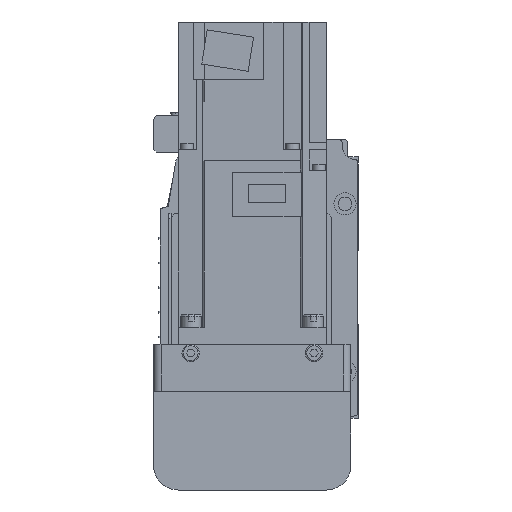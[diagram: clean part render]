
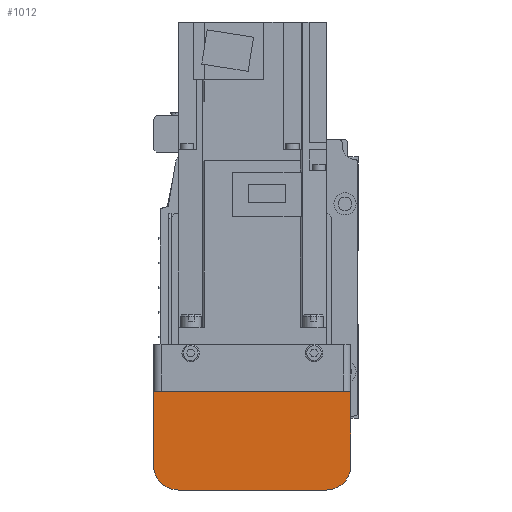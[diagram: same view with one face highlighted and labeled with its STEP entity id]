
A CAD part, left-side view. The second image highlights one B-rep face of the part: STEP entity #1012.
In plain terms, the highlighted planar face has unit normal (-1, 0, 0).
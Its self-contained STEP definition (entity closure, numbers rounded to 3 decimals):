
#1012 = ADVANCED_FACE( '', ( #2553 ), #2554, .F. );
#2553 = FACE_OUTER_BOUND( '', #4825, .T. );
#2554 = PLANE( '', #4826 );
#4825 = EDGE_LOOP( '', ( #7530, #7531, #7532, #7533, #7534, #7535 ) );
#4826 = AXIS2_PLACEMENT_3D( '', #7536, #7537, #7538 );
#7530 = ORIENTED_EDGE( '', *, *, #13496, .F. );
#7531 = ORIENTED_EDGE( '', *, *, #13497, .F. );
#7532 = ORIENTED_EDGE( '', *, *, #13498, .F. );
#7533 = ORIENTED_EDGE( '', *, *, #13499, .F. );
#7534 = ORIENTED_EDGE( '', *, *, #13500, .F. );
#7535 = ORIENTED_EDGE( '', *, *, #13501, .F. );
#7536 = CARTESIAN_POINT( '', ( -192., 37., 7. ) );
#7537 = DIRECTION( '', ( 1., 0., 0. ) );
#7538 = DIRECTION( '', ( 0., 0., -1. ) );
#13496 = EDGE_CURVE( '', #16256, #16257, #16258, .T. );
#13497 = EDGE_CURVE( '', #16259, #16256, #16260, .T. );
#13498 = EDGE_CURVE( '', #16261, #16259, #16262, .T. );
#13499 = EDGE_CURVE( '', #16263, #16261, #16264, .T. );
#13500 = EDGE_CURVE( '', #16265, #16263, #16266, .T. );
#13501 = EDGE_CURVE( '', #16257, #16265, #16267, .T. );
#16256 = VERTEX_POINT( '', #20093 );
#16257 = VERTEX_POINT( '', #20094 );
#16258 = LINE( '', #20095, #20096 );
#16259 = VERTEX_POINT( '', #20097 );
#16260 = LINE( '', #20098, #20099 );
#16261 = VERTEX_POINT( '', #20100 );
#16262 = CIRCLE( '', #20101, 10. );
#16263 = VERTEX_POINT( '', #20102 );
#16264 = LINE( '', #20103, #20104 );
#16265 = VERTEX_POINT( '', #20105 );
#16266 = CIRCLE( '', #20106, 10. );
#16267 = LINE( '', #20107, #20108 );
#20093 = CARTESIAN_POINT( '', ( -192., 40., -12.1 ) );
#20094 = CARTESIAN_POINT( '', ( -192., -40., -12.1 ) );
#20095 = CARTESIAN_POINT( '', ( -192., 50., -12.1 ) );
#20096 = VECTOR( '', #24421, 1000. );
#20097 = CARTESIAN_POINT( '', ( -192., 40., -42. ) );
#20098 = CARTESIAN_POINT( '', ( -192., 40., -42. ) );
#20099 = VECTOR( '', #24422, 1000. );
#20100 = CARTESIAN_POINT( '', ( -192., 30., -52. ) );
#20101 = AXIS2_PLACEMENT_3D( '', #24423, #24424, #24425 );
#20102 = CARTESIAN_POINT( '', ( -192., -30., -52. ) );
#20103 = CARTESIAN_POINT( '', ( -192., -30., -52. ) );
#20104 = VECTOR( '', #24426, 1000. );
#20105 = CARTESIAN_POINT( '', ( -192., -40., -42. ) );
#20106 = AXIS2_PLACEMENT_3D( '', #24427, #24428, #24429 );
#20107 = CARTESIAN_POINT( '', ( -192., -40., -12.1 ) );
#20108 = VECTOR( '', #24430, 1000. );
#24421 = DIRECTION( '', ( 0., -1., 0. ) );
#24422 = DIRECTION( '', ( 0., 0., 1. ) );
#24423 = CARTESIAN_POINT( '', ( -192., 30., -42. ) );
#24424 = DIRECTION( '', ( 1., 0., 0. ) );
#24425 = DIRECTION( '', ( 0., 0., -1. ) );
#24426 = DIRECTION( '', ( 0., 1., 0. ) );
#24427 = CARTESIAN_POINT( '', ( -192., -30., -42. ) );
#24428 = DIRECTION( '', ( 1., 0., 0. ) );
#24429 = DIRECTION( '', ( 0., 0., -1. ) );
#24430 = DIRECTION( '', ( 0., 0., -1. ) );
